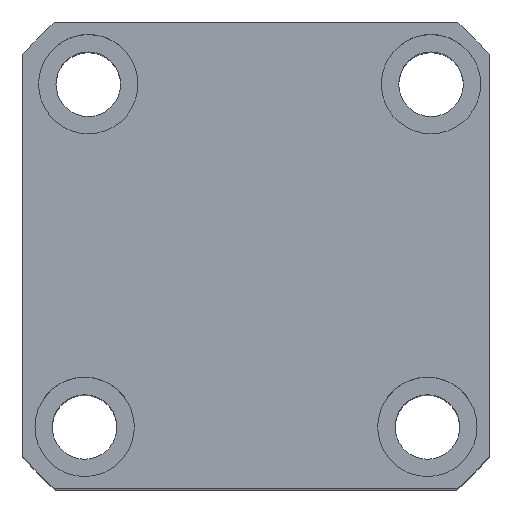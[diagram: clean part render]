
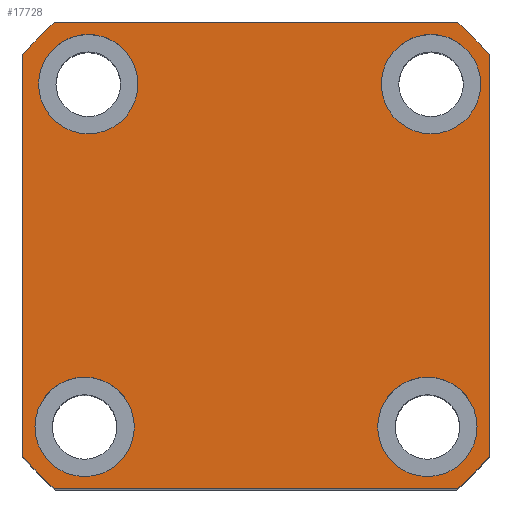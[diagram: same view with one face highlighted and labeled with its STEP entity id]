
A CAD part, top view. The second image highlights one B-rep face of the part: STEP entity #17728.
In plain terms, the highlighted planar face has unit normal (0, 0, 1) as drawn and (0, 0, -1) by its records, which use the part's own axes.
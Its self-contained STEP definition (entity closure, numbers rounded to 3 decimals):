
#63 = AXIS2_PLACEMENT_3D ( 'NONE', #2088, #14302, #3835 ) ;
#220 = ORIENTED_EDGE ( 'NONE', *, *, #8536, .F. ) ;
#255 = EDGE_CURVE ( 'NONE', #3824, #6242, #4819, .T. ) ;
#419 = LINE ( 'NONE', #18530, #4496 ) ;
#654 = CARTESIAN_POINT ( 'NONE',  ( 0., 0., 0. ) ) ;
#799 = CARTESIAN_POINT ( 'NONE',  ( -47., -40.435, 0. ) ) ;
#920 = CIRCLE ( 'NONE', #6830, 10. ) ;
#922 = DIRECTION ( 'NONE',  ( 0., 1., 0. ) ) ;
#1020 = DIRECTION ( 'NONE',  ( 0., 0., -1. ) ) ;
#1155 = DIRECTION ( 'NONE',  ( -1., 0., 0. ) ) ;
#1297 = VERTEX_POINT ( 'NONE', #9222 ) ;
#1307 = DIRECTION ( 'NONE',  ( 0., 0., -1. ) ) ;
#1420 = VECTOR ( 'NONE', #13074, 1000. ) ;
#1576 = EDGE_LOOP ( 'NONE', ( #20842, #1815 ) ) ;
#1596 = EDGE_LOOP ( 'NONE', ( #13306, #12189 ) ) ;
#1715 = FACE_BOUND ( 'NONE', #20043, .T. ) ;
#1815 = ORIENTED_EDGE ( 'NONE', *, *, #21057, .F. ) ;
#2088 = CARTESIAN_POINT ( 'NONE',  ( 35.23, -34.5, 0. ) ) ;
#2415 = VERTEX_POINT ( 'NONE', #8719 ) ;
#2598 = DIRECTION ( 'NONE',  ( 0., 0., -1. ) ) ;
#2855 = CARTESIAN_POINT ( 'NONE',  ( 47., 40.435, 0. ) ) ;
#2920 = ORIENTED_EDGE ( 'NONE', *, *, #12773, .F. ) ;
#3223 = EDGE_LOOP ( 'NONE', ( #12898, #3968, #14881, #18396, #15456, #14369, #12873, #4728 ) ) ;
#3417 = CARTESIAN_POINT ( 'NONE',  ( 0., 0., 0. ) ) ;
#3722 = CARTESIAN_POINT ( 'NONE',  ( 44.5, 34.5, 0. ) ) ;
#3824 = VERTEX_POINT ( 'NONE', #799 ) ;
#3835 = DIRECTION ( 'NONE',  ( -1., 0., 0. ) ) ;
#3968 = ORIENTED_EDGE ( 'NONE', *, *, #18790, .F. ) ;
#4059 = EDGE_CURVE ( 'NONE', #6242, #2415, #419, .T. ) ;
#4063 = VERTEX_POINT ( 'NONE', #12066 ) ;
#4129 = DIRECTION ( 'NONE',  ( 1., 0., 0. ) ) ;
#4411 = CIRCLE ( 'NONE', #5176, 10. ) ;
#4472 = EDGE_CURVE ( 'NONE', #12031, #3824, #8051, .T. ) ;
#4496 = VECTOR ( 'NONE', #10293, 1000. ) ;
#4542 = CARTESIAN_POINT ( 'NONE',  ( -47., 47., 0. ) ) ;
#4728 = ORIENTED_EDGE ( 'NONE', *, *, #11311, .F. ) ;
#4819 = CIRCLE ( 'NONE', #15296, 62. ) ;
#4961 = DIRECTION ( 'NONE',  ( 0., 0., 1. ) ) ;
#5176 = AXIS2_PLACEMENT_3D ( 'NONE', #8534, #20657, #10276 ) ;
#5188 = DIRECTION ( 'NONE',  ( 1., 0., 0. ) ) ;
#5379 = AXIS2_PLACEMENT_3D ( 'NONE', #15412, #4961, #17165 ) ;
#5487 = CIRCLE ( 'NONE', #14986, 10. ) ;
#5792 = CIRCLE ( 'NONE', #13413, 62. ) ;
#5990 = AXIS2_PLACEMENT_3D ( 'NONE', #19116, #8702, #20826 ) ;
#6242 = VERTEX_POINT ( 'NONE', #12848 ) ;
#6362 = FACE_BOUND ( 'NONE', #1596, .T. ) ;
#6619 = VECTOR ( 'NONE', #922, 1000. ) ;
#6830 = AXIS2_PLACEMENT_3D ( 'NONE', #13051, #2598, #14814 ) ;
#7221 = CARTESIAN_POINT ( 'NONE',  ( -23.77, -34.5, 0. ) ) ;
#7759 = CARTESIAN_POINT ( 'NONE',  ( -24.5, 34.5, 0. ) ) ;
#7976 = EDGE_CURVE ( 'NONE', #4063, #21670, #14018, .T. ) ;
#8051 = LINE ( 'NONE', #16252, #21882 ) ;
#8389 = CARTESIAN_POINT ( 'NONE',  ( -44.5, 34.5, 0. ) ) ;
#8486 = CARTESIAN_POINT ( 'NONE',  ( 47., -40.435, 0. ) ) ;
#8534 = CARTESIAN_POINT ( 'NONE',  ( -33.77, -34.5, 0. ) ) ;
#8536 = EDGE_CURVE ( 'NONE', #18351, #16865, #920, .T. ) ;
#8702 = DIRECTION ( 'NONE',  ( 0., 0., 1. ) ) ;
#8719 = CARTESIAN_POINT ( 'NONE',  ( 40.435, -47., 0. ) ) ;
#9085 = DIRECTION ( 'NONE',  ( 0., 0., -1. ) ) ;
#9182 = AXIS2_PLACEMENT_3D ( 'NONE', #10331, #22427, #12097 ) ;
#9222 = CARTESIAN_POINT ( 'NONE',  ( 24.5, 34.5, 0. ) ) ;
#9580 = EDGE_CURVE ( 'NONE', #20600, #13941, #5792, .T. ) ;
#9993 = ORIENTED_EDGE ( 'NONE', *, *, #20878, .F. ) ;
#10276 = DIRECTION ( 'NONE',  ( -1., 0., 0. ) ) ;
#10293 = DIRECTION ( 'NONE',  ( 1., 0., 0. ) ) ;
#10331 = CARTESIAN_POINT ( 'NONE',  ( -34.5, 34.5, 0. ) ) ;
#10529 = CARTESIAN_POINT ( 'NONE',  ( 40.435, 47., 0. ) ) ;
#10994 = FACE_BOUND ( 'NONE', #1576, .T. ) ;
#11311 = EDGE_CURVE ( 'NONE', #13941, #11494, #19381, .T. ) ;
#11463 = CARTESIAN_POINT ( 'NONE',  ( 35.23, -34.5, 0. ) ) ;
#11494 = VERTEX_POINT ( 'NONE', #20157 ) ;
#11595 = DIRECTION ( 'NONE',  ( 0., 0., -1. ) ) ;
#11642 = EDGE_CURVE ( 'NONE', #2415, #22030, #12058, .T. ) ;
#11749 = CARTESIAN_POINT ( 'NONE',  ( 34.5, 34.5, 0. ) ) ;
#12031 = VERTEX_POINT ( 'NONE', #14178 ) ;
#12058 = CIRCLE ( 'NONE', #5379, 62. ) ;
#12066 = CARTESIAN_POINT ( 'NONE',  ( 45.23, -34.5, 0. ) ) ;
#12097 = DIRECTION ( 'NONE',  ( -1., 0., 0. ) ) ;
#12189 = ORIENTED_EDGE ( 'NONE', *, *, #7976, .F. ) ;
#12638 = CIRCLE ( 'NONE', #20567, 10. ) ;
#12773 = EDGE_CURVE ( 'NONE', #16865, #18351, #13677, .T. ) ;
#12840 = PLANE ( 'NONE',  #19015 ) ;
#12848 = CARTESIAN_POINT ( 'NONE',  ( -40.435, -47., 0. ) ) ;
#12873 = ORIENTED_EDGE ( 'NONE', *, *, #13842, .F. ) ;
#12898 = ORIENTED_EDGE ( 'NONE', *, *, #9580, .F. ) ;
#13051 = CARTESIAN_POINT ( 'NONE',  ( -34.5, 34.5, 0. ) ) ;
#13074 = DIRECTION ( 'NONE',  ( -1., 0., 0. ) ) ;
#13224 = DIRECTION ( 'NONE',  ( -1., 0., 0. ) ) ;
#13306 = ORIENTED_EDGE ( 'NONE', *, *, #15637, .F. ) ;
#13413 = AXIS2_PLACEMENT_3D ( 'NONE', #3417, #15654, #5188 ) ;
#13507 = DIRECTION ( 'NONE',  ( -1., 0., 0. ) ) ;
#13677 = CIRCLE ( 'NONE', #9182, 10. ) ;
#13842 = EDGE_CURVE ( 'NONE', #11494, #12031, #14489, .T. ) ;
#13941 = VERTEX_POINT ( 'NONE', #10529 ) ;
#13989 = VERTEX_POINT ( 'NONE', #3722 ) ;
#14018 = CIRCLE ( 'NONE', #15920, 10. ) ;
#14123 = ORIENTED_EDGE ( 'NONE', *, *, #14288, .F. ) ;
#14178 = CARTESIAN_POINT ( 'NONE',  ( -47., 40.435, 0. ) ) ;
#14288 = EDGE_CURVE ( 'NONE', #13989, #1297, #15848, .T. ) ;
#14302 = DIRECTION ( 'NONE',  ( 0., 0., -1. ) ) ;
#14369 = ORIENTED_EDGE ( 'NONE', *, *, #4472, .F. ) ;
#14489 = CIRCLE ( 'NONE', #5990, 62. ) ;
#14589 = DIRECTION ( 'NONE',  ( 0., 0., 1. ) ) ;
#14814 = DIRECTION ( 'NONE',  ( -1., 0., 0. ) ) ;
#14878 = CARTESIAN_POINT ( 'NONE',  ( 47., 47., 0. ) ) ;
#14881 = ORIENTED_EDGE ( 'NONE', *, *, #11642, .F. ) ;
#14986 = AXIS2_PLACEMENT_3D ( 'NONE', #11749, #1307, #13507 ) ;
#15296 = AXIS2_PLACEMENT_3D ( 'NONE', #21635, #22158, #18516 ) ;
#15412 = CARTESIAN_POINT ( 'NONE',  ( 0., 0., 0. ) ) ;
#15456 = ORIENTED_EDGE ( 'NONE', *, *, #255, .F. ) ;
#15570 = VERTEX_POINT ( 'NONE', #7221 ) ;
#15637 = EDGE_CURVE ( 'NONE', #21670, #4063, #22374, .T. ) ;
#15654 = DIRECTION ( 'NONE',  ( 0., 0., 1. ) ) ;
#15848 = CIRCLE ( 'NONE', #22252, 10. ) ;
#15899 = LINE ( 'NONE', #14878, #6619 ) ;
#15920 = AXIS2_PLACEMENT_3D ( 'NONE', #11463, #1020, #13224 ) ;
#16252 = CARTESIAN_POINT ( 'NONE',  ( -47., 47., 0. ) ) ;
#16865 = VERTEX_POINT ( 'NONE', #7759 ) ;
#17165 = DIRECTION ( 'NONE',  ( 1., 0., 0. ) ) ;
#17581 = EDGE_CURVE ( 'NONE', #18606, #15570, #12638, .T. ) ;
#17653 = EDGE_LOOP ( 'NONE', ( #220, #2920 ) ) ;
#17728 = ADVANCED_FACE ( 'NONE', ( #6362, #10994, #20739, #1715, #19681 ), #12840, .F. ) ;
#17821 = CARTESIAN_POINT ( 'NONE',  ( -43.77, -34.5, 0. ) ) ;
#18063 = DIRECTION ( 'NONE',  ( 0., -1., 0. ) ) ;
#18351 = VERTEX_POINT ( 'NONE', #8389 ) ;
#18396 = ORIENTED_EDGE ( 'NONE', *, *, #4059, .F. ) ;
#18516 = DIRECTION ( 'NONE',  ( 1., 0., 0. ) ) ;
#18530 = CARTESIAN_POINT ( 'NONE',  ( -47., -47., 0. ) ) ;
#18606 = VERTEX_POINT ( 'NONE', #17821 ) ;
#18790 = EDGE_CURVE ( 'NONE', #22030, #20600, #15899, .T. ) ;
#19015 = AXIS2_PLACEMENT_3D ( 'NONE', #654, #14589, #4129 ) ;
#19116 = CARTESIAN_POINT ( 'NONE',  ( 0., 0., 0. ) ) ;
#19381 = LINE ( 'NONE', #4542, #1420 ) ;
#19483 = CARTESIAN_POINT ( 'NONE',  ( -33.77, -34.5, 0. ) ) ;
#19681 = FACE_OUTER_BOUND ( 'NONE', #3223, .T. ) ;
#20043 = EDGE_LOOP ( 'NONE', ( #9993, #14123 ) ) ;
#20157 = CARTESIAN_POINT ( 'NONE',  ( -40.435, 47., 0. ) ) ;
#20567 = AXIS2_PLACEMENT_3D ( 'NONE', #19483, #9085, #21199 ) ;
#20600 = VERTEX_POINT ( 'NONE', #2855 ) ;
#20657 = DIRECTION ( 'NONE',  ( 0., 0., -1. ) ) ;
#20739 = FACE_BOUND ( 'NONE', #17653, .T. ) ;
#20826 = DIRECTION ( 'NONE',  ( 1., 0., 0. ) ) ;
#20842 = ORIENTED_EDGE ( 'NONE', *, *, #17581, .F. ) ;
#20878 = EDGE_CURVE ( 'NONE', #1297, #13989, #5487, .T. ) ;
#21057 = EDGE_CURVE ( 'NONE', #15570, #18606, #4411, .T. ) ;
#21199 = DIRECTION ( 'NONE',  ( -1., 0., 0. ) ) ;
#21635 = CARTESIAN_POINT ( 'NONE',  ( 0., 0., 0. ) ) ;
#21670 = VERTEX_POINT ( 'NONE', #22505 ) ;
#21882 = VECTOR ( 'NONE', #18063, 1000. ) ;
#21946 = CARTESIAN_POINT ( 'NONE',  ( 34.5, 34.5, 0. ) ) ;
#22030 = VERTEX_POINT ( 'NONE', #8486 ) ;
#22158 = DIRECTION ( 'NONE',  ( 0., 0., 1. ) ) ;
#22252 = AXIS2_PLACEMENT_3D ( 'NONE', #21946, #11595, #1155 ) ;
#22374 = CIRCLE ( 'NONE', #63, 10. ) ;
#22427 = DIRECTION ( 'NONE',  ( 0., 0., -1. ) ) ;
#22505 = CARTESIAN_POINT ( 'NONE',  ( 25.23, -34.5, 0. ) ) ;
